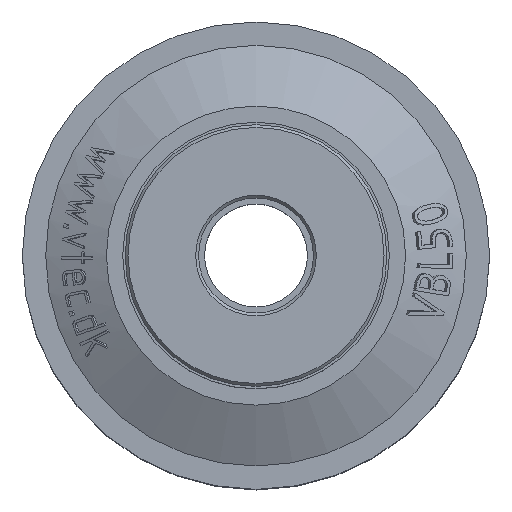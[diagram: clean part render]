
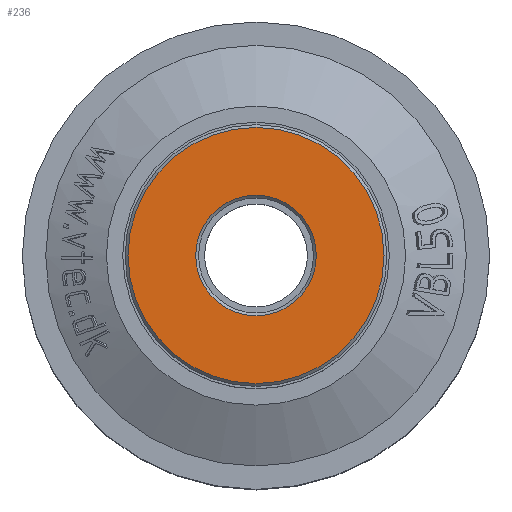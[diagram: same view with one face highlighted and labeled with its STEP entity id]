
A CAD part, top view. The second image highlights one B-rep face of the part: STEP entity #236.
In plain terms, the highlighted planar face has unit normal (0, 0, 1).
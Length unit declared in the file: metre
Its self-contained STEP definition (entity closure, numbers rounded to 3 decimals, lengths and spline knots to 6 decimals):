
#236 = ADVANCED_FACE( '', ( #626, #627 ), #628, .F. );
#626 = FACE_BOUND( '', #5815, .T. );
#627 = FACE_OUTER_BOUND( '', #5816, .T. );
#628 = PLANE( '', #5817 );
#5815 = EDGE_LOOP( '', ( #6814 ) );
#5816 = EDGE_LOOP( '', ( #6815 ) );
#5817 = AXIS2_PLACEMENT_3D( '', #6816, #6817, #6818 );
#6814 = ORIENTED_EDGE( '', *, *, #7397, .T. );
#6815 = ORIENTED_EDGE( '', *, *, #7115, .T. );
#6816 = CARTESIAN_POINT( '', ( -0.00615, 0., 0.025 ) );
#6817 = DIRECTION( '', ( 0., 0., -1. ) );
#6818 = DIRECTION( '', ( -1., 0., 0. ) );
#7115 = EDGE_CURVE( '', #7674, #7674, #7675, .F. );
#7397 = EDGE_CURVE( '', #8108, #8108, #8109, .T. );
#7674 = VERTEX_POINT( '', #9325 );
#7675 = CIRCLE( '', #9326, 0.0137 );
#8108 = VERTEX_POINT( '', #11172 );
#8109 = CIRCLE( '', #11173, 0.00645 );
#9325 = CARTESIAN_POINT( '', ( -0.0137, 0., 0.025 ) );
#9326 = AXIS2_PLACEMENT_3D( '', #11248, #11249, #11250 );
#11172 = CARTESIAN_POINT( '', ( -0.00645, 0., 0.025 ) );
#11173 = AXIS2_PLACEMENT_3D( '', #11349, #11350, #11351 );
#11248 = CARTESIAN_POINT( '', ( 0., 0., 0.025 ) );
#11249 = DIRECTION( '', ( 0., 0., -1. ) );
#11250 = DIRECTION( '', ( -1., 0., 0. ) );
#11349 = CARTESIAN_POINT( '', ( 0., 0., 0.025 ) );
#11350 = DIRECTION( '', ( 0., 0., -1. ) );
#11351 = DIRECTION( '', ( -1., 0., 0. ) );
